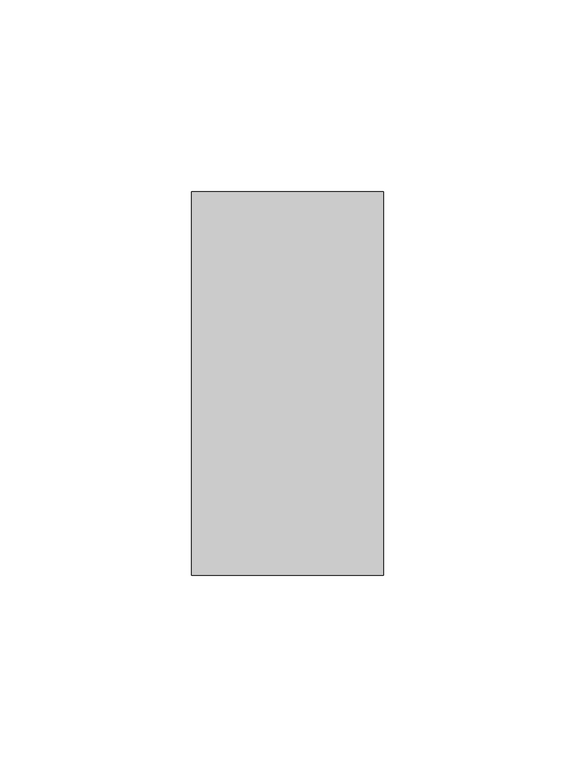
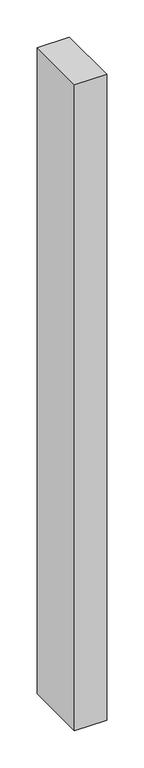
"""IFC4 building model written with IfcOpenShell, lengths in millimetres: member geometry, Прямоугольный импост : 50х100."""

from ifc_helpers import new_model, si_unit, frame, origin, place, context, project, spatial, polyline, outline, extrude, source, transform, mapped, element, save


def member_a95d30d4(model_context):
    return source(origin(), model_context, "Body", "SweptSolid", [
        extrude(outline(polyline([(0.0, 50.0), (0.0, -50.0), (-50.0, -50.0), (-50.0, 50.0), (0.0, 50.0)])), frame((0.0, 0.0, -1060.0), z_axis=(0.0, 0.0, 1.0), x_axis=(1.0, 0.0, 0.0)), (0.0, 0.0, 1.0), 1060.0),
    ])


if __name__ == "__main__":
    model = new_model("IFC4")
    model_context = context("Model", 3, world=origin())
    ifc_project = project(units=[si_unit("LENGTHUNIT", "METRE", prefix="MILLI")], contexts=[model_context])
    site = spatial("IfcSite", under=ifc_project)
    building = spatial("IfcBuilding", under=site)
    placement = place(None, origin())
    member_shape = member_a95d30d4(model_context)
    element("IfcMember", 1, ObjectType="Прямоугольный импост : 50х100", at=placement, inside=building, context=model_context, shape_type="MappedRepresentation", body=[
        mapped(member_shape, transform((0.0, 0.0, 0.0), x_axis=(1.0, 0.0, 0.0), y_axis=(0.0, 1.0, 0.0), z_axis=(0.0, 0.0, 1.0))),
    ])
    save(model, "model.ifc")
